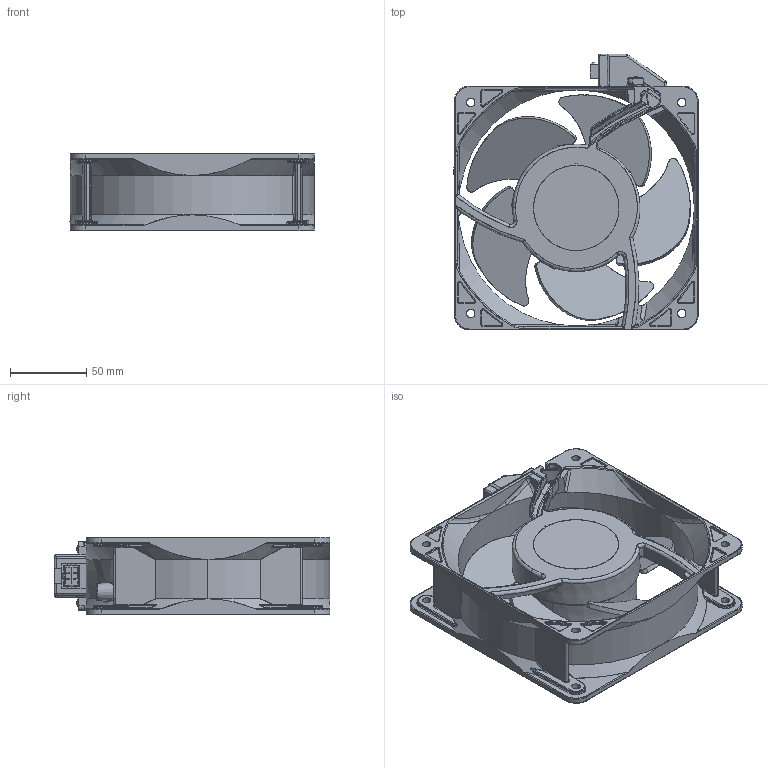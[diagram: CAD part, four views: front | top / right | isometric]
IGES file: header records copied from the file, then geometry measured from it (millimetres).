
Start section: SolidWorks IGES file using analytic representation for surfaces
Global section: file name: T:\02_設計\02_業務\DG22001_顧客対応\提出用3Dデータ（フレーム・フィンガーガード）\◆データ公開資料\オリジナルデータ２：保管用3D・・・提出用は”3D”フォルダ\FAN\160角51厚AD,ADWタイプ\16051ADW_RIBLESS_TB.IGS,15HSolidWorks 2019,15HSolidWorks 2019,   32,308,15,308,15,26H16051A; native system: DW_RIBLESS_TB.SLDPRT; preprocessor: 1.; date: 221130.172746
Bounding box: 160.37 x 181 x 51 mm (x, y, z)
Surface area: 142915.3 mm2 (no closed solid volume)
Topology: 0 solids, 0 shells, 2037 faces, 17214 edges, 17089 vertices
Faces by surface type: bspline 1212, revolution 825
